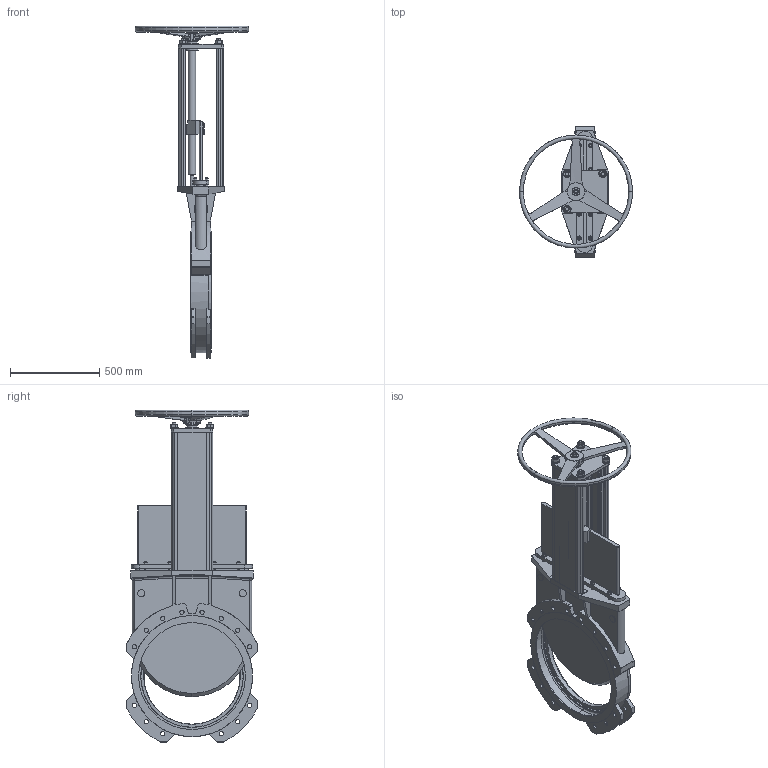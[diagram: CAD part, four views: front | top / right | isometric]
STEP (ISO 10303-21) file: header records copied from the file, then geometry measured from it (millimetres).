
FILE_DESCRIPTION(('STEP AP203'),'1');
FILE_NAME('G:/KONSTRUK/3-d block för CD/MV VALVE/HAND WHEEL/600/MV-DN600-HW.stp','2012-12-03T13:59:46',(' '),(' '),'Spatial InterOp 3D',' ',' ');
FILE_SCHEMA(('CONFIG_CONTROL_DESIGN'));
Length unit declared in the file: millimetre
Products named in the file (4): 1; 2; 3; 4
Bounding box: 635 x 740 x 1863.5 mm (x, y, z)
Volume: 47863243.1 mm3; surface area: 5098453.4 mm2
Topology: 4 solids, 17 shells, 1355 faces, 3410 edges, 2168 vertices
Faces by surface type: cylinder 566, plane 474, cone 283, bspline 18, torus 14
Entity records: 46434 total; most frequent: CARTESIAN_POINT 13797, DIRECTION 7016, ORIENTED_EDGE 6816, EDGE_CURVE 3408, AXIS2_PLACEMENT_3D 2783, VERTEX_POINT 2168, EDGE_LOOP 1534, LINE 1450
